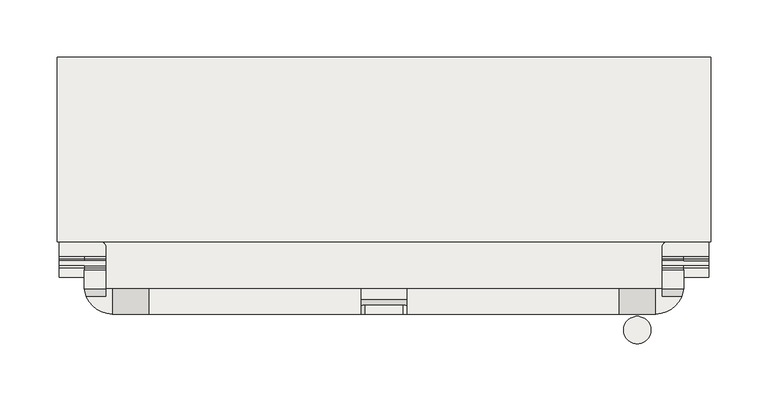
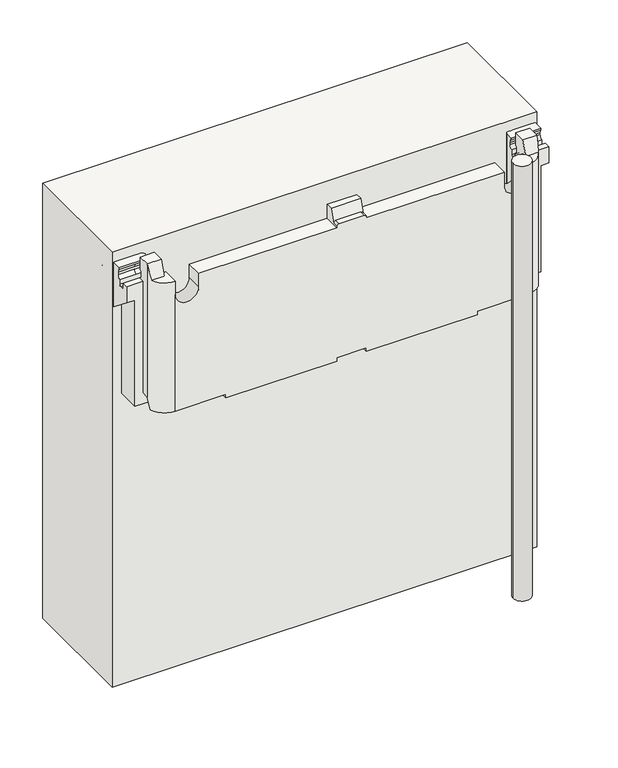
"""IFC4 building model written with IfcOpenShell, lengths in millimetres: covering geometry, panel VP Modulo prova ultima texture : panel VP Modulo prova ultima texture."""

from ifc_helpers import new_model, si_unit, point, frame, frame_2d, origin, origin_with_axes, place, context, project, spatial, polyline, circle_curve, ellipse_curve, trimmed, segment, composite_curve, outline, extrude, source, transform, mapped, element, save
from ifc_brep_helpers import plane_surface, cylinder_surface, revolved_surface, advanced_brep


def covering_a3d12077(model_context):
    return source(origin(), model_context, "Body", "SolidModel", [
        advanced_brep(
        [(-20.0, 40.503817, 620.002181), (-20.0, 49.5015434, 620.002181), (-20.0, 49.5015434, 600.0051242), (-20.0, 27.5015432, 600.0051242), (-20.0, 27.5015432, 602.0051242), (-20.0, 34.5021229, 602.0051242), (20.0, 49.5015434, 620.002181), (20.0, 40.503817, 620.002181), (20.0, 34.5021229, 602.0051242), (20.0, 27.5015432, 602.0051242), (20.0, 27.5015432, 600.0051242), (20.0, 49.5015434, 600.0051242), (-17.0, 35.5025688, 605.0051242), (17.0, 35.5025688, 605.0051242), (17.0, 27.5015432, 605.0051242), (-17.0, 27.5015432, 605.0051242), (-262.4808119, 49.5015434, 620.0), (-262.4808119, 65.772467, 620.0), (-262.4808119, 65.772467, 602.0569559), (-262.4808119, 63.7739273, 597.1614448), (-262.4808119, 63.7739273, 594.1614448), (-262.4808119, 67.7745502, 589.465245), (-262.4808119, 59.5, 589.465245), (-262.4808119, 59.5, 430.0008375), (-262.4808119, 49.5015434, 430.0008375), (262.4808119, 67.7745502, 589.465245), (262.4808119, 63.7739273, 594.1614448), (262.4808119, 63.7739273, 597.1614448), (262.4808119, 65.772467, 602.0569559), (262.4808119, 65.772467, 620.0), (262.4808119, 49.5015434, 620.0), (262.4808119, 49.5015434, 430.0008375), (262.4808119, 59.5, 430.0008375), (262.4808119, 59.5, 589.465245), (205.7808119, 27.5015432, 600.0051242), (205.7808119, 49.5015434, 600.0051242), (243.7808119, 42.6167555, 600.0051242), (243.7808119, 49.5015434, 600.0051242), (237.7808119, 49.5015434, 600.0051242), (237.7808119, 27.5015432, 600.0051242), (260.6550436, 42.6167555, 600.0051242), (-237.7808119, 27.5015432, 600.0051242), (-237.7808119, 49.5015434, 600.0051242), (-243.7808119, 49.5015434, 600.0051242), (-243.7808119, 42.6167555, 600.0051242), (-260.6550436, 42.6167555, 600.0051242), (-205.7808119, 49.5015434, 600.0051242), (-205.7808119, 27.5015432, 600.0051242), (-262.4808119, 109.8415131, 437.0015138), (262.4808119, 109.8415131, 437.0015138), (262.4808119, 141.2113001, 464.6420064), (-262.4808119, 141.2113001, 464.6420064), (-262.4808119, 147.3447094, 471.104234), (262.4808119, 147.3447094, 471.104234), (262.4808119, 184.4941844, 517.9868892), (-262.4808119, 184.4941844, 517.9868892), (262.4808119, 184.4941844, 544.985744), (-262.4808119, 184.4941844, 544.985744), (284.4808119, 184.4914281, 544.985744), (284.4808119, 202.488872, 544.985744), (-284.4808119, 202.488872, 544.985744), (-284.4808119, 184.4914281, 544.985744), (-284.4808119, 202.488872, 505.2724689), (284.4808119, 202.488872, 505.2724689), (262.4808119, 193.4423608, 463.8939381), (-262.4808119, 193.4423608, 463.8939381), (-284.4808119, 193.4423608, 463.8939381), (284.4808119, 193.4423608, 463.8939381), (262.4808119, 190.281945, 462.7662479), (-262.4808119, 190.281945, 462.7662479), (284.4808119, 190.281945, 462.7662479), (284.4808119, 59.5, 566.3969024), (273.4808119, 59.5, 566.3969024), (273.4808119, 180.2456216, 470.7189571), (262.4808119, 180.2456216, 470.7189571), (-262.4808119, 180.2456216, 470.7189571), (-273.4808119, 180.2456216, 470.7189571), (-273.4808119, 59.5, 566.3969024), (-284.4808119, 59.5, 566.3969024), (-284.4808119, 190.281945, 462.7662479), (262.4808119, 174.5899002, 470.0638751), (-262.4808119, 174.5899002, 470.0638751), (273.4808119, 174.5899002, 470.0638751), (273.4808119, 160.5878776, 452.3933509), (-273.4808119, 160.5878776, 452.3933509), (-273.4808119, 174.5899002, 470.0638751), (-273.4808119, 118.1414154, 414.9929974), (273.4808119, 118.1414154, 414.9929974), (237.7808119, 118.1414154, 414.9929974), (197.7808119, 118.1414154, 414.9929974), (20.0, 118.1414154, 414.9929974), (-20.0, 118.1414154, 414.9929974), (-197.7808119, 118.1414154, 414.9929974), (-237.7808119, 118.1414154, 414.9929974), (-273.4808119, 59.5, 415.0051259), (-237.7808119, 78.1414154, 415.0051259), (-197.7808119, 78.1414154, 415.0051259), (-20.0, 78.1414154, 415.0051259), (20.0, 78.1414154, 415.0051259), (197.7808119, 78.1414154, 415.0051259), (237.7808119, 78.1414154, 415.0051259), (273.4808119, 59.5, 415.0051259), (252.4808119, 59.5, 415.0051259), (252.4808119, 44.6291413, 415.0051259), (261.4118126, 44.6291413, 415.0051259), (237.7808119, 27.5015432, 415.0051259), (169.4808119, 27.5015432, 415.0051259), (169.4808119, 67.5015432, 415.0051259), (20.0, 67.5015432, 415.0051259), (20.0, 27.5015432, 415.0051259), (-20.0, 27.5015432, 415.0051259), (-20.0, 67.5015432, 415.0051259), (-169.4808119, 67.5015432, 415.0051259), (-169.4808119, 27.5015432, 415.0051259), (-237.7808119, 27.5015432, 415.0051259), (-261.4118126, 44.6291413, 415.0051259), (-252.4808119, 44.6291413, 415.0051259), (-252.4808119, 59.5, 415.0051259), (-205.7808119, 27.5015432, 580.9815937), (-237.7808119, 27.5015432, 580.9815937), (-169.4808119, 27.5015432, 409.9955405), (-20.0, 27.5015432, 409.9955405), (20.0, 27.5015432, 409.9955405), (169.4808119, 27.5015432, 409.9955405), (237.7808119, 27.5015432, 580.9815937), (205.7808119, 27.5015432, 580.9815937), (-237.7808119, 49.5015434, 580.9815937), (-205.7808119, 49.5015434, 580.9815937), (205.7808119, 49.5015434, 580.9815937), (237.7808119, 49.5015434, 580.9815937), (243.7808119, 49.5015434, 437.0015138), (-243.7808119, 49.5015434, 437.0015138), (-262.4808119, 101.3665857, 437.0015138), (-251.8742102, 90.7599839, 437.0015138), (-248.1742102, 90.7599839, 437.0015138), (-243.7808119, 86.3665857, 437.0015138), (243.7808119, 86.3665857, 437.0015138), (248.1742102, 90.7599839, 437.0015138), (251.8742102, 90.7599839, 437.0015138), (262.4808119, 101.3665857, 437.0015138), (-284.4808119, 59.5, 589.465245), (-284.4808119, 67.7745502, 589.465245), (-284.4808119, 67.7745502, 582.4654102), (-284.4808119, 69.7745502, 580.4654102), (-284.4808119, 74.0001297, 580.4654102), (-284.4808119, 76.0001297, 582.4654102), (-284.4808119, 76.0001297, 589.465245), (-284.4808119, 80.0007527, 594.1614448), (-284.4808119, 80.0007527, 597.1614448), (-284.4808119, 78.002213, 602.0569559), (-284.4808119, 78.002213, 605.0086707), (-284.4808119, 115.166168, 605.0086707), (-284.4808119, 118.166168, 602.0086707), (-284.4808119, 118.166168, 585.7281184), (-284.4808119, 119.6447617, 583.1425192), (-262.4808119, 119.6447617, 583.1425192), (-262.4808119, 118.166168, 585.7281184), (-262.4808119, 118.166168, 602.0086707), (-262.4808119, 115.166168, 605.0086707), (-262.4808119, 101.3665857, 605.0086707), (-252.4808119, 59.5, 430.0008375), (-243.7808119, 67.7745502, 589.465245), (-243.7808119, 67.7745502, 582.4654102), (-262.4808119, 67.7745502, 582.4654102), (-262.4808119, 69.7745502, 580.4654102), (-243.7808119, 69.7745502, 580.4654102), (-243.7808119, 74.0001297, 580.4654102), (-262.4808119, 74.0001297, 580.4654102), (-262.4808119, 76.0001297, 582.4654102), (-243.7808119, 76.0001297, 582.4654102), (-243.7808119, 76.0001297, 589.465245), (-262.4808119, 76.0001297, 589.465245), (-262.4808119, 80.0007527, 594.1614448), (-243.7808119, 80.0007527, 594.1614448), (-243.7808119, 80.0007527, 597.1614448), (-262.4808119, 80.0007527, 597.1614448), (-262.4808119, 78.002213, 602.0569559), (-243.7808119, 78.002213, 602.0569559), (-243.7808119, 78.002213, 605.0086707), (-243.7808119, 86.3665857, 605.0086707), (-248.1742102, 90.7599839, 605.0086707), (-251.8742102, 90.7599839, 605.0086707), (-243.7808119, 63.7739273, 594.1614448), (-243.7808119, 63.7739273, 597.1614448), (-243.7808119, 65.772467, 602.0569559), (-243.7808119, 65.772467, 620.0), (-243.7808119, 49.5015434, 620.0), (284.4808119, 119.6447617, 583.1425192), (284.4808119, 118.166168, 585.7281184), (284.4808119, 118.166168, 602.0086707), (284.4808119, 115.166168, 605.0086707), (284.4808119, 78.002213, 605.0086707), (284.4808119, 78.002213, 602.0569559), (284.4808119, 80.0007527, 597.1614448), (284.4808119, 80.0007527, 594.1614448), (284.4808119, 76.0001297, 589.465245), (284.4808119, 76.0001297, 582.4654102), (284.4808119, 74.0001297, 580.4654102), (284.4808119, 69.7745502, 580.4654102), (284.4808119, 67.7745502, 582.4654102), (284.4808119, 67.7745502, 589.465245), (284.4808119, 59.5, 589.465245), (262.4808119, 115.166168, 605.0086707), (262.4808119, 118.166168, 602.0086707), (262.4808119, 118.166168, 585.7281184), (262.4808119, 119.6447617, 583.1425192), (262.4808119, 101.3665857, 605.0086707), (252.4808119, 59.5, 430.0008375), (262.4808119, 69.7745502, 580.4654102), (262.4808119, 67.7745502, 582.4654102), (262.4808119, 76.0001297, 582.4654102), (262.4808119, 74.0001297, 580.4654102), (262.4808119, 80.0007527, 594.1614448), (262.4808119, 76.0001297, 589.465245), (262.4808119, 78.002213, 602.0569559), (262.4808119, 80.0007527, 597.1614448), (243.7808119, 49.5015434, 620.0), (243.7808119, 65.772467, 620.0), (243.7808119, 65.772467, 602.0569559), (243.7808119, 63.7739273, 597.1614448), (243.7808119, 63.7739273, 594.1614448), (243.7808119, 67.7745502, 589.465245), (243.7808119, 67.7745502, 582.4654102), (243.7808119, 69.7745502, 580.4654102), (243.7808119, 74.0001297, 580.4654102), (243.7808119, 76.0001297, 582.4654102), (243.7808119, 76.0001297, 589.465245), (243.7808119, 80.0007527, 594.1614448), (243.7808119, 80.0007527, 597.1614448), (243.7808119, 78.002213, 602.0569559), (243.7808119, 78.002213, 605.0086707), (243.7808119, 86.3665857, 605.0086707), (251.8742102, 90.7599839, 605.0086707), (248.1742102, 90.7599839, 605.0086707), (237.7808119, 78.1414154, 409.9955405), (197.7808119, 78.1414154, 409.9955405), (197.7808119, 118.1414154, 409.9955405), (237.7808119, 118.1414154, 409.9955405), (-20.0, 78.1414154, 409.9955405), (-20.0, 118.1414154, 409.9955405), (20.0, 118.1414154, 409.9955405), (20.0, 78.1414154, 409.9955405), (-237.7808119, 78.1414154, 409.9955405), (-237.7808119, 118.1414154, 409.9955405), (-197.7808119, 118.1414154, 409.9955405), (-197.7808119, 78.1414154, 409.9955405), (20.0, 67.5015432, 409.9955405), (169.4808119, 67.5015432, 409.9955405), (-20.0, 67.5015432, 409.9955405), (-169.4808119, 67.5015432, 409.9955405), (-252.4808119, 49.5015434, 430.0008375), (252.4808119, 49.5015434, 430.0008375)],
        [
            (0, 1),
            (1, 2),
            (2, 3),
            (3, 4),
            (4, 5),
            (5, 0),
            (6, 7),
            (7, 8),
            (8, 9),
            (9, 10),
            (10, 11),
            (11, 6),
            (0, 7),
            (6, 1),
            (5, 12, ellipse_curve(frame((-17.0, 34.5021229, 602.0051242), z_axis=(0.0, 0.9486409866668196, -0.31635467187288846), x_axis=(0.0, 0.31635467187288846, 0.9486409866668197)), 3.1624187, 3.0)),
            (12, 13),
            (13, 8, ellipse_curve(frame((17.0, 34.5021229, 602.0051242), z_axis=(0.0, 0.9486409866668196, -0.31635467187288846), x_axis=(0.0, 0.31635467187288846, 0.9486409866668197)), 3.1624187, 3.0)),
            (14, 9, circle_curve(frame((17.0, 27.5015432, 602.0051242), z_axis=(0.0, 1.0, 0.0), x_axis=(-1.0, 0.0, 0.0)), 3.0)),
            (13, 14),
            (4, 15, circle_curve(frame((-17.0, 27.5015432, 602.0051242), z_axis=(0.0, 1.0, 0.0), x_axis=(-1.0, 0.0, 0.0)), 3.0)),
            (15, 12),
            (15, 14),
            (16, 17),
            (17, 18),
            (18, 19, circle_curve(frame((-262.4808119, 70.7690822, 597.1614448), z_axis=(1.0, 0.0, 0.0), x_axis=(0.0, -1.0, 0.0)), 6.9951549)),
            (19, 20),
            (20, 21, circle_curve(frame((-262.4808119, 68.5305961, 594.1614448), z_axis=(1.0, 0.0, 0.0), x_axis=(0.0, -1.0, 0.0)), 4.7566689)),
            (21, 22),
            (22, 23),
            (23, 24),
            (24, 16),
            (25, 26, circle_curve(frame((262.4808119, 68.5305961, 594.1614448), z_axis=(-1.0, 0.0, 0.0), x_axis=(0.0, -1.0, 0.0)), 4.7566689)),
            (26, 27),
            (27, 28, circle_curve(frame((262.4808119, 70.7690822, 597.1614448), z_axis=(-1.0, 0.0, 0.0), x_axis=(0.0, -1.0, 0.0)), 6.9951549)),
            (28, 29),
            (29, 30),
            (30, 31),
            (31, 32),
            (32, 33),
            (33, 25),
            (10, 34),
            (34, 35),
            (35, 11),
            (36, 37),
            (37, 38),
            (38, 39),
            (39, 40, circle_curve(frame((237.7808119, 52.367225, 600.0051242), z_axis=(0.0, 0.0, 1.0), x_axis=(1.0, 0.0, 0.0)), 24.8656818)),
            (40, 36),
            (41, 42),
            (42, 43),
            (43, 44),
            (44, 45),
            (45, 41, circle_curve(frame((-237.7808119, 52.367225, 600.0051242), z_axis=(0.0, 0.0, 1.0), x_axis=(-1.0, 0.0, 0.0)), 24.8656818)),
            (46, 47),
            (47, 3),
            (2, 46),
            (48, 49),
            (49, 50),
            (50, 51),
            (51, 48),
            (52, 53),
            (53, 54),
            (54, 55),
            (55, 52),
            (54, 56),
            (56, 57),
            (57, 55),
            (56, 58),
            (58, 59),
            (59, 60),
            (60, 61),
            (61, 57),
            (62, 60),
            (59, 63),
            (63, 62),
            (64, 65),
            (65, 66),
            (66, 62),
            (63, 67),
            (67, 64),
            (64, 68, circle_curve(frame((262.4808119, 191.5102381, 464.3163545), z_axis=(-1.0, 0.0, 0.0), x_axis=(0.0, -1.0, 0.0)), 1.9777598)),
            (68, 69),
            (69, 65, circle_curve(frame((-262.4808119, 191.5102381, 464.3163545), z_axis=(1.0, 0.0, 0.0), x_axis=(0.0, -1.0, 0.0)), 1.9777598)),
            (68, 70),
            (70, 71),
            (71, 72),
            (72, 73),
            (73, 74),
            (74, 75),
            (75, 76),
            (76, 77),
            (77, 78),
            (78, 79),
            (79, 69),
            (74, 80, circle_curve(frame((262.4808119, 177.7453022, 467.5635526), z_axis=(1.0, 0.0, 0.0), x_axis=(0.0, -1.0, 0.0)), 4.0259377)),
            (80, 81),
            (81, 75, circle_curve(frame((-262.4808119, 177.7453022, 467.5635526), z_axis=(-1.0, 0.0, 0.0), x_axis=(0.0, -1.0, 0.0)), 4.0259377)),
            (80, 82),
            (82, 83),
            (83, 84),
            (84, 85),
            (85, 81),
            (86, 84),
            (83, 87),
            (87, 88),
            (88, 89),
            (89, 90),
            (90, 91),
            (91, 92),
            (92, 93),
            (93, 86),
            (50, 53, circle_curve(frame((262.4808119, 108.1562691, 502.1568691), z_axis=(1.0, 0.0, 0.0), x_axis=(0.0, -1.0, 0.0)), 50.0)),
            (52, 51, circle_curve(frame((-262.4808119, 108.1562691, 502.1568691), z_axis=(-1.0, 0.0, 0.0), x_axis=(0.0, -1.0, 0.0)), 50.0)),
            (94, 86),
            (93, 95),
            (95, 96),
            (96, 92),
            (91, 97),
            (97, 98),
            (98, 90),
            (89, 99),
            (99, 100),
            (100, 88),
            (87, 101),
            (101, 102),
            (102, 103),
            (103, 104),
            (104, 105, circle_curve(frame((237.7808119, 52.367225, 415.0051259), z_axis=(0.0, 0.0, -1.0), x_axis=(1.0, 0.0, 0.0)), 24.8656818)),
            (105, 106),
            (106, 107),
            (107, 108),
            (108, 109),
            (109, 110),
            (110, 111),
            (111, 112),
            (112, 113),
            (113, 114),
            (114, 115, circle_curve(frame((-237.7808119, 52.367225, 415.0051259), z_axis=(0.0, 0.0, -1.0), x_axis=(-1.0, 0.0, 0.0)), 24.8656818)),
            (115, 116),
            (116, 117),
            (117, 94),
            (47, 118),
            (118, 119, circle_curve(frame((-221.7808119, 27.5015432, 580.9815937), z_axis=(0.0, 1.0, 0.0), x_axis=(-1.0, 0.0, 0.0)), 16.0)),
            (119, 114),
            (113, 120),
            (120, 121),
            (121, 110),
            (109, 122),
            (122, 123),
            (123, 106),
            (105, 124),
            (124, 125, circle_curve(frame((221.7808119, 27.5015432, 580.9815937), z_axis=(0.0, 1.0, 0.0), x_axis=(1.0, 0.0, 0.0)), 16.0)),
            (125, 34),
            (42, 126),
            (126, 127, circle_curve(frame((-221.7808119, 49.5015434, 580.9815937), z_axis=(0.0, -1.0, 0.0), x_axis=(-1.0, 0.0, 0.0)), 16.0)),
            (127, 46),
            (35, 128),
            (128, 129, circle_curve(frame((221.7808119, 49.5015434, 580.9815937), z_axis=(0.0, -1.0, 0.0), x_axis=(1.0, 0.0, 0.0)), 16.0)),
            (129, 38),
            (37, 130),
            (130, 131),
            (131, 43),
            (48, 132),
            (132, 133, circle_curve(frame((-251.8742102, 101.3665857, 437.0015138), z_axis=(0.0, 0.0, 1.0), x_axis=(-1.0, 0.0, 0.0)), 10.6066017)),
            (133, 134),
            (134, 135, circle_curve(frame((-248.1742102, 86.3665857, 437.0015138), z_axis=(0.0, 0.0, -1.0), x_axis=(-1.0, 0.0, 0.0)), 4.3933983)),
            (135, 131),
            (130, 136),
            (136, 137, circle_curve(frame((248.1742102, 86.3665857, 437.0015138), z_axis=(0.0, 0.0, -1.0), x_axis=(1.0, 0.0, 0.0)), 4.3933983)),
            (137, 138),
            (138, 139, circle_curve(frame((251.8742102, 101.3665857, 437.0015138), z_axis=(0.0, 0.0, 1.0), x_axis=(1.0, 0.0, 0.0)), 10.6066017)),
            (139, 49),
            (66, 79, circle_curve(frame((-284.4808119, 191.5102381, 464.3163545), z_axis=(-1.0, 0.0, 0.0), x_axis=(0.0, -1.0, 0.0)), 1.9777598)),
            (78, 140),
            (140, 141),
            (141, 142),
            (142, 143, circle_curve(frame((-284.4808119, 69.7745502, 582.4654102), z_axis=(1.0, 0.0, 0.0), x_axis=(0.0, -1.0, 0.0)), 2.0)),
            (143, 144),
            (144, 145, circle_curve(frame((-284.4808119, 74.0001297, 582.4654102), z_axis=(1.0, 0.0, 0.0), x_axis=(0.0, -1.0, 0.0)), 2.0)),
            (145, 146),
            (146, 147, circle_curve(frame((-284.4808119, 75.2440838, 594.1614448), z_axis=(1.0, 0.0, 0.0), x_axis=(0.0, -1.0, 0.0)), 4.7566689)),
            (147, 148),
            (148, 149, circle_curve(frame((-284.4808119, 73.0055977, 597.1614448), z_axis=(1.0, 0.0, 0.0), x_axis=(0.0, -1.0, 0.0)), 6.9951549)),
            (149, 150),
            (150, 151),
            (151, 152, circle_curve(frame((-284.4808119, 115.166168, 602.0086707), z_axis=(-1.0, 0.0, 0.0), x_axis=(0.0, -1.0, 0.0)), 3.0)),
            (152, 153),
            (153, 154, circle_curve(frame((-284.4808119, 121.166168, 585.7281184), z_axis=(1.0, 0.0, 0.0), x_axis=(0.0, -1.0, 0.0)), 3.0)),
            (154, 61),
            (57, 155),
            (155, 156, circle_curve(frame((-262.4808119, 121.166168, 585.7281184), z_axis=(-1.0, 0.0, 0.0), x_axis=(0.0, -1.0, 0.0)), 3.0)),
            (156, 157),
            (157, 158, circle_curve(frame((-262.4808119, 115.166168, 602.0086707), z_axis=(1.0, 0.0, 0.0), x_axis=(0.0, -1.0, 0.0)), 3.0)),
            (158, 159),
            (159, 132),
            (77, 94),
            (117, 160),
            (160, 23),
            (22, 140),
            (141, 21),
            (21, 161),
            (161, 162),
            (162, 163),
            (163, 142),
            (163, 164, circle_curve(frame((-262.4808119, 69.7745502, 582.4654102), z_axis=(1.0, 0.0, 0.0), x_axis=(0.0, -1.0, 0.0)), 2.0)),
            (164, 143),
            (164, 165),
            (165, 166),
            (166, 167),
            (167, 144),
            (167, 168, circle_curve(frame((-262.4808119, 74.0001297, 582.4654102), z_axis=(1.0, 0.0, 0.0), x_axis=(0.0, -1.0, 0.0)), 2.0)),
            (168, 145),
            (168, 169),
            (169, 170),
            (170, 171),
            (171, 146),
            (171, 172, circle_curve(frame((-262.4808119, 75.2440838, 594.1614448), z_axis=(1.0, 0.0, 0.0), x_axis=(0.0, -1.0, 0.0)), 4.7566689)),
            (172, 147),
            (172, 173),
            (173, 174),
            (174, 175),
            (175, 148),
            (175, 176, circle_curve(frame((-262.4808119, 73.0055977, 597.1614448), z_axis=(1.0, 0.0, 0.0), x_axis=(0.0, -1.0, 0.0)), 6.9951549)),
            (176, 149),
            (176, 177),
            (177, 178),
            (178, 150),
            (178, 179),
            (179, 180, circle_curve(frame((-248.1742102, 86.3665857, 605.0086707), z_axis=(0.0, 0.0, 1.0), x_axis=(-1.0, 0.0, 0.0)), 4.3933983)),
            (180, 181),
            (181, 159, circle_curve(frame((-251.8742102, 101.3665857, 605.0086707), z_axis=(0.0, 0.0, -1.0), x_axis=(-1.0, 0.0, 0.0)), 10.6066017)),
            (158, 151),
            (157, 152),
            (156, 153),
            (155, 154),
            (76, 85, circle_curve(frame((-273.4808119, 177.7453022, 467.5635526), z_axis=(1.0, 0.0, 0.0), x_axis=(0.0, -1.0, 0.0)), 4.0259377)),
            (45, 16, ellipse_curve(frame((-237.7808119, 52.367225, 628.3225437), z_axis=(0.0, 0.9455185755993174, -0.32556815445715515), x_axis=(0.0, -0.3255681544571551, -0.9455185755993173)), 76.3762716, 24.8656818)),
            (24, 115, ellipse_curve(frame((-237.7808119, 52.367225, 438.8204986), z_axis=(0.0, -0.9510565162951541, 0.3090169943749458), x_axis=(0.0, -0.30901699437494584, -0.9510565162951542)), 80.4670366, 24.8656818)),
            (119, 41),
            (177, 174, circle_curve(frame((-243.7808119, 73.0055977, 597.1614448), z_axis=(-1.0, 0.0, 0.0), x_axis=(0.0, -1.0, 0.0)), 6.9951549)),
            (173, 170, circle_curve(frame((-243.7808119, 75.2440838, 594.1614448), z_axis=(-1.0, 0.0, 0.0), x_axis=(0.0, -1.0, 0.0)), 4.7566689)),
            (169, 166, circle_curve(frame((-243.7808119, 74.0001297, 582.4654102), z_axis=(-1.0, 0.0, 0.0), x_axis=(0.0, -1.0, 0.0)), 2.0)),
            (165, 162, circle_curve(frame((-243.7808119, 69.7745502, 582.4654102), z_axis=(-1.0, 0.0, 0.0), x_axis=(0.0, -1.0, 0.0)), 2.0)),
            (161, 182, circle_curve(frame((-243.7808119, 68.5305961, 594.1614448), z_axis=(-1.0, 0.0, 0.0), x_axis=(0.0, -1.0, 0.0)), 4.7566689)),
            (182, 183),
            (183, 184, circle_curve(frame((-243.7808119, 70.7690822, 597.1614448), z_axis=(-1.0, 0.0, 0.0), x_axis=(0.0, -1.0, 0.0)), 6.9951549)),
            (184, 185),
            (185, 186),
            (186, 44),
            (135, 179),
            (16, 186),
            (185, 17),
            (184, 18),
            (183, 19),
            (182, 20),
            (134, 180),
            (133, 181),
            (39, 124),
            (104, 31, ellipse_curve(frame((237.7808119, 52.367225, 438.8204986), z_axis=(0.0, -0.9510565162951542, 0.3090169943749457), x_axis=(0.0, -0.3090169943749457, -0.9510565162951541)), 80.4670366, 24.8656818)),
            (30, 40, ellipse_curve(frame((237.7808119, 52.367225, 628.3225437), z_axis=(0.0, 0.9455185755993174, -0.3255681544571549), x_axis=(0.0, -0.3255681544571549, -0.9455185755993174)), 76.3762716, 24.8656818)),
            (58, 187),
            (187, 188, circle_curve(frame((284.4808119, 121.166168, 585.7281184), z_axis=(-1.0, 0.0, 0.0), x_axis=(0.0, -1.0, 0.0)), 3.0)),
            (188, 189),
            (189, 190, circle_curve(frame((284.4808119, 115.166168, 602.0086707), z_axis=(1.0, 0.0, 0.0), x_axis=(0.0, -1.0, 0.0)), 3.0)),
            (190, 191),
            (191, 192),
            (192, 193, circle_curve(frame((284.4808119, 73.0055977, 597.1614448), z_axis=(-1.0, 0.0, 0.0), x_axis=(0.0, -1.0, 0.0)), 6.9951549)),
            (193, 194),
            (194, 195, circle_curve(frame((284.4808119, 75.2440838, 594.1614448), z_axis=(-1.0, 0.0, 0.0), x_axis=(0.0, -1.0, 0.0)), 4.7566689)),
            (195, 196),
            (196, 197, circle_curve(frame((284.4808119, 74.0001297, 582.4654102), z_axis=(-1.0, 0.0, 0.0), x_axis=(0.0, -1.0, 0.0)), 2.0)),
            (197, 198),
            (198, 199, circle_curve(frame((284.4808119, 69.7745502, 582.4654102), z_axis=(-1.0, 0.0, 0.0), x_axis=(0.0, -1.0, 0.0)), 2.0)),
            (199, 200),
            (200, 201),
            (201, 71),
            (70, 67, circle_curve(frame((284.4808119, 191.5102381, 464.3163545), z_axis=(1.0, 0.0, 0.0), x_axis=(0.0, -1.0, 0.0)), 1.9777598)),
            (202, 203, circle_curve(frame((262.4808119, 115.166168, 602.0086707), z_axis=(-1.0, 0.0, 0.0), x_axis=(0.0, -1.0, 0.0)), 3.0)),
            (203, 204),
            (204, 205, circle_curve(frame((262.4808119, 121.166168, 585.7281184), z_axis=(1.0, 0.0, 0.0), x_axis=(0.0, -1.0, 0.0)), 3.0)),
            (205, 56),
            (139, 206),
            (206, 202),
            (201, 33),
            (32, 207),
            (207, 102),
            (101, 72),
            (198, 208),
            (208, 209, circle_curve(frame((262.4808119, 69.7745502, 582.4654102), z_axis=(-1.0, 0.0, 0.0), x_axis=(0.0, -1.0, 0.0)), 2.0)),
            (209, 199),
            (196, 210),
            (210, 211, circle_curve(frame((262.4808119, 74.0001297, 582.4654102), z_axis=(-1.0, 0.0, 0.0), x_axis=(0.0, -1.0, 0.0)), 2.0)),
            (211, 197),
            (194, 212),
            (212, 213, circle_curve(frame((262.4808119, 75.2440838, 594.1614448), z_axis=(-1.0, 0.0, 0.0), x_axis=(0.0, -1.0, 0.0)), 4.7566689)),
            (213, 195),
            (192, 214),
            (214, 215, circle_curve(frame((262.4808119, 73.0055977, 597.1614448), z_axis=(-1.0, 0.0, 0.0), x_axis=(0.0, -1.0, 0.0)), 6.9951549)),
            (215, 193),
            (189, 203),
            (202, 190),
            (188, 204),
            (187, 205),
            (200, 25),
            (36, 216),
            (216, 217),
            (217, 218),
            (218, 219, circle_curve(frame((243.7808119, 70.7690822, 597.1614448), z_axis=(1.0, 0.0, 0.0), x_axis=(0.0, -1.0, 0.0)), 6.9951549)),
            (219, 220),
            (220, 221, circle_curve(frame((243.7808119, 68.5305961, 594.1614448), z_axis=(1.0, 0.0, 0.0), x_axis=(0.0, -1.0, 0.0)), 4.7566689)),
            (221, 222),
            (222, 223, circle_curve(frame((243.7808119, 69.7745502, 582.4654102), z_axis=(1.0, 0.0, 0.0), x_axis=(0.0, -1.0, 0.0)), 2.0)),
            (223, 224),
            (224, 225, circle_curve(frame((243.7808119, 74.0001297, 582.4654102), z_axis=(1.0, 0.0, 0.0), x_axis=(0.0, -1.0, 0.0)), 2.0)),
            (225, 226),
            (226, 227, circle_curve(frame((243.7808119, 75.2440838, 594.1614448), z_axis=(1.0, 0.0, 0.0), x_axis=(0.0, -1.0, 0.0)), 4.7566689)),
            (227, 228),
            (228, 229, circle_curve(frame((243.7808119, 73.0055977, 597.1614448), z_axis=(1.0, 0.0, 0.0), x_axis=(0.0, -1.0, 0.0)), 6.9951549)),
            (229, 230),
            (230, 231),
            (231, 136),
            (221, 25),
            (209, 222),
            (208, 223),
            (29, 217),
            (216, 30),
            (28, 218),
            (27, 219),
            (26, 220),
            (211, 224),
            (210, 225),
            (213, 226),
            (212, 227),
            (215, 228),
            (214, 229),
            (191, 230),
            (206, 232, circle_curve(frame((251.8742102, 101.3665857, 605.0086707), z_axis=(0.0, 0.0, -1.0), x_axis=(1.0, 0.0, 0.0)), 10.6066017)),
            (232, 233),
            (233, 231, circle_curve(frame((248.1742102, 86.3665857, 605.0086707), z_axis=(0.0, 0.0, 1.0), x_axis=(1.0, 0.0, 0.0)), 4.3933983)),
            (233, 137),
            (232, 138),
            (119, 126),
            (127, 118),
            (129, 124),
            (125, 128),
            (82, 73, circle_curve(frame((273.4808119, 177.7453022, 467.5635526), z_axis=(-1.0, 0.0, 0.0), x_axis=(0.0, -1.0, 0.0)), 4.0259377)),
            (234, 235),
            (235, 236),
            (236, 237),
            (237, 234),
            (234, 100),
            (99, 235),
            (89, 236),
            (88, 237),
            (238, 239),
            (239, 240),
            (240, 241),
            (241, 238),
            (241, 98),
            (97, 238),
            (240, 90),
            (239, 91),
            (242, 243),
            (243, 244),
            (244, 245),
            (245, 242),
            (245, 96),
            (95, 242),
            (244, 92),
            (243, 93),
            (246, 247),
            (247, 123),
            (122, 246),
            (248, 121),
            (120, 249),
            (249, 248),
            (108, 246),
            (247, 107),
            (249, 112),
            (111, 248),
            (250, 160),
            (116, 250),
            (250, 24),
            (251, 103),
            (207, 251),
            (31, 251),
        ],
        [
            plane_surface(frame((-20.0, 49.5042184, 620.002181), z_axis=(-1.0, 0.0, 0.0), x_axis=(0.0, 1.0, 0.0))),
            plane_surface(frame((20.0, 49.5042184, 620.002181), z_axis=(1.0, 0.0, 0.0), x_axis=(0.0, -1.0, 0.0))),
            plane_surface(frame((-20.0, 40.503817, 620.002181), z_axis=(0.0, 0.0, 1.0), x_axis=(1.0, 0.0, 0.0))),
            plane_surface(frame((-20.0, 33.835159, 600.0051242), z_axis=(0.0, -0.9486409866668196, 0.31635467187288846), x_axis=(1.0, 0.0, 0.0))),
            cylinder_surface(frame((17.0, 27.5015432, 602.0051242), z_axis=(0.0, 1.0, 0.0), x_axis=(-1.0, 0.0, 0.0)), 3.0),
            cylinder_surface(frame((-17.0, 27.5015432, 602.0051242), z_axis=(0.0, 1.0, 0.0), x_axis=(-1.0, 0.0, 0.0)), 3.0),
            plane_surface(frame((-17.0, 49.501543, 605.0051242), z_axis=(0.0, 0.0, 1.0), x_axis=(0.0, -1.0, 0.0))),
            plane_surface(frame((-262.4808119, 118.1414154, 414.9929974), z_axis=(-1.0, 0.0, 0.0), x_axis=(0.0, -0.7502972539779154, -0.6611006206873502))),
            plane_surface(frame((262.4808119, 118.1414154, 414.9929974), z_axis=(1.0, 0.0, 0.0), x_axis=(0.0, 0.7502972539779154, 0.6611006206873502))),
            plane_surface(frame((-262.4808119, 27.5015432, 600.0051242), z_axis=(0.0, 0.0, 1.0), x_axis=(1.0, 0.0, 0.0))),
            plane_surface(frame((-262.4808119, 109.8415131, 437.0015138), z_axis=(0.0, -0.6611006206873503, 0.7502972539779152), x_axis=(1.0, 0.0, 0.0))),
            plane_surface(frame((-262.4808119, 147.3447094, 471.104234), z_axis=(0.0, -0.7837688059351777, 0.6210527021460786), x_axis=(1.0, 0.0, 0.0))),
            plane_surface(frame((-262.4808119, 184.4941844, 517.9868892), z_axis=(0.0, -1.0, 0.0), x_axis=(1.0, 0.0, 0.0))),
            plane_surface(frame((-262.4808119, 184.4941844, 544.985744), z_axis=(0.0, 0.0, 1.0), x_axis=(1.0, 0.0, 0.0))),
            plane_surface(frame((-262.4808119, 202.488872, 544.985744), z_axis=(0.0, 1.0, 0.0), x_axis=(1.0, 0.0, 0.0))),
            plane_surface(frame((-262.4808119, 202.488872, 505.2724689), z_axis=(0.0, 0.9769248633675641, -0.21358326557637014), x_axis=(1.0, 0.0, 0.0))),
            cylinder_surface(frame((262.4808119, 191.5102381, 464.3163545), z_axis=(-1.0, 0.0, 0.0), x_axis=(0.0, -1.0, 0.0)), 1.9777598),
            plane_surface(frame((-262.4808119, 190.281945, 462.7662479), z_axis=(0.0, -0.6210526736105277, -0.7837688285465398), x_axis=(1.0, 0.0, 0.0))),
            revolved_surface(polyline([(262.4808119, 173.71936449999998, 467.5635526), (-262.4808119, 173.71936449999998, 467.5635526)]), (262.4808119, 177.7453022, 467.5635526), (1.0, 0.0, 0.0)),
            plane_surface(frame((-262.4808119, 174.5899002, 470.0638751), z_axis=(0.0, 0.7837682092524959, -0.6210534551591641), x_axis=(1.0, 0.0, 0.0))),
            plane_surface(frame((-262.4808119, 160.5878776, 452.3933509), z_axis=(0.0, 0.6611006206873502, -0.7502972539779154), x_axis=(1.0, 0.0, 0.0))),
            revolved_surface(polyline([(262.4808119, 58.1562691, 502.1568691), (-262.4808119, 58.1562691, 502.1568691)]), (262.4808119, 108.1562691, 502.1568691), (1.0, 0.0, 0.0)),
            plane_surface(frame((-262.4808119, 118.1551803, 415.0051259), z_axis=(0.0, 0.0, -1.0), x_axis=(1.0, 0.0, 0.0))),
            plane_surface(frame((-262.4808119, 27.5015432, 415.0051259), z_axis=(0.0, -1.0, 0.0), x_axis=(1.0, 0.0, 0.0))),
            plane_surface(frame((-262.4808119, 49.5015434, 600.0051242), z_axis=(0.0, 1.0, 0.0), x_axis=(1.0, 0.0, 0.0))),
            plane_surface(frame((-262.4808119, 49.5015434, 437.0015138), z_axis=(0.0, 0.0, 1.0), x_axis=(1.0, 0.0, 0.0))),
            plane_surface(frame((-284.4808119, 202.488872, 505.2724689), z_axis=(-1.0000000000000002, 0.0, 0.0), x_axis=(0.0, -0.21358326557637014, -0.9769248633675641))),
            plane_surface(frame((-262.4808119, 202.488872, 505.2724689), z_axis=(1.0000000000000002, 0.0, 0.0), x_axis=(0.0, 0.21358326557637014, 0.9769248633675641))),
            cylinder_surface(frame((-262.4808119, 191.5102381, 464.3163545), z_axis=(-1.0, 0.0, 0.0), x_axis=(0.0, -1.0, 0.0)), 1.9777598),
            plane_surface(frame((-284.4808119, 59.5, 566.3969024), z_axis=(0.0, -1.0, 0.0), x_axis=(1.0, 0.0, 0.0))),
            plane_surface(frame((-284.4808119, 67.7745502, 589.465245), z_axis=(0.0, 1.0, 0.0), x_axis=(1.0, 0.0, 0.0))),
            revolved_surface(polyline([(-262.4808119, 67.7745502, 582.4654102), (-284.4808119, 67.7745502, 582.4654102)]), (-262.4808119, 69.7745502, 582.4654102), (1.0, 0.0, 0.0)),
            plane_surface(frame((-284.4808119, 69.7745502, 580.4654102), z_axis=(0.0, 0.0, 1.0), x_axis=(1.0, 0.0, 0.0))),
            revolved_surface(polyline([(-262.4808119, 72.0001297, 582.4654102), (-284.4808119, 72.0001297, 582.4654102)]), (-262.4808119, 74.0001297, 582.4654102), (1.0, 0.0, 0.0)),
            plane_surface(frame((-284.4808119, 76.0001297, 582.4654102), z_axis=(0.0, -1.0, 0.0), x_axis=(1.0, 0.0, 0.0))),
            revolved_surface(polyline([(-262.4808119, 70.4874149, 594.1614448), (-284.4808119, 70.4874149, 594.1614448)]), (-262.4808119, 75.2440838, 594.1614448), (1.0, 0.0, 0.0)),
            plane_surface(frame((-284.4808119, 80.0007527, 594.1614448), z_axis=(0.0, -1.0, 0.0), x_axis=(1.0, 0.0, 0.0))),
            revolved_surface(polyline([(-262.4808119, 66.01044279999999, 597.1614448), (-284.4808119, 66.01044279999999, 597.1614448)]), (-262.4808119, 73.0055977, 597.1614448), (1.0, 0.0, 0.0)),
            plane_surface(frame((-284.4808119, 78.002213, 602.0569559), z_axis=(0.0, -1.0, 0.0), x_axis=(1.0, 0.0, 0.0))),
            plane_surface(frame((-284.4808119, 78.002213, 605.0086707), z_axis=(0.0, 0.0, 1.0), x_axis=(1.0, 0.0, 0.0))),
            cylinder_surface(frame((-262.4808119, 115.166168, 602.0086707), z_axis=(-1.0, 0.0, 0.0), x_axis=(0.0, -1.0, 0.0)), 3.0),
            plane_surface(frame((-284.4808119, 118.166168, 602.0086707), z_axis=(0.0, 1.0, 0.0), x_axis=(1.0, 0.0, 0.0))),
            revolved_surface(polyline([(-262.4808119, 118.166168, 585.7281184), (-284.4808119, 118.166168, 585.7281184)]), (-262.4808119, 121.166168, 585.7281184), (1.0, 0.0, 0.0)),
            plane_surface(frame((-284.4808119, 119.6447617, 583.1425192), z_axis=(0.0, 0.5071354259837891, 0.8618663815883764), x_axis=(1.0, 0.0, 0.0))),
            plane_surface(frame((-284.4808119, 59.5, 589.465245), z_axis=(0.0, 0.0, 1.0), x_axis=(1.0, 0.0, 0.0))),
            plane_surface(frame((-273.4808119, 174.5899002, 470.0638751), z_axis=(-1.0, 0.0, 0.0), x_axis=(0.0, -0.6210534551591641, -0.7837682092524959))),
            revolved_surface(polyline([(-262.4808119, 173.71936449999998, 467.5635526), (-273.4808119, 173.71936449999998, 467.5635526)]), (-262.4808119, 177.7453022, 467.5635526), (1.0, 0.0, 0.0)),
            cylinder_surface(frame((-237.7808119, 52.367225, 409.9955405), z_axis=(0.0, 0.0, -1.0), x_axis=(-1.0, 0.0, 0.0)), 24.8656818),
            plane_surface(frame((-243.7808119, 33.2976457, 600.0051242), z_axis=(1.0, 0.0, 0.0), x_axis=(0.0, 1.0, 0.0))),
            revolved_surface(polyline([(-243.7808119, 67.7745502, 582.4654102), (-262.4808119, 67.7745502, 582.4654102)]), (-243.7808119, 69.7745502, 582.4654102), (1.0, 0.0, 0.0)),
            plane_surface(frame((-262.4808119, 49.5015434, 620.0), z_axis=(0.0, 0.0, 1.0), x_axis=(1.0, 0.0, 0.0))),
            plane_surface(frame((-262.4808119, 65.772467, 620.0), z_axis=(0.0, 1.0, 0.0), x_axis=(1.0, 0.0, 0.0))),
            revolved_surface(polyline([(-243.7808119, 63.7739273, 597.1614448), (-262.4808119, 63.7739273, 597.1614448)]), (-243.7808119, 70.7690822, 597.1614448), (1.0, 0.0, 0.0)),
            plane_surface(frame((-262.4808119, 63.7739273, 597.1614448), z_axis=(0.0, 1.0, 0.0), x_axis=(1.0, 0.0, 0.0))),
            revolved_surface(polyline([(-243.7808119, 63.773927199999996, 594.1614448), (-262.4808119, 63.773927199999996, 594.1614448)]), (-243.7808119, 68.5305961, 594.1614448), (1.0, 0.0, 0.0)),
            revolved_surface(polyline([(-243.7808119, 72.0001297, 582.4654102), (-262.4808119, 72.0001297, 582.4654102)]), (-243.7808119, 74.0001297, 582.4654102), (1.0, 0.0, 0.0)),
            revolved_surface(polyline([(-243.7808119, 70.4874149, 594.1614448), (-262.4808119, 70.4874149, 594.1614448)]), (-243.7808119, 75.2440838, 594.1614448), (1.0, 0.0, 0.0)),
            revolved_surface(polyline([(-243.7808119, 66.01044279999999, 597.1614448), (-262.4808119, 66.01044279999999, 597.1614448)]), (-243.7808119, 73.0055977, 597.1614448), (1.0, 0.0, 0.0)),
            plane_surface(frame((-262.4808119, 42.6167555, 600.0051242), z_axis=(0.0, -0.9455185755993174, 0.32556815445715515), x_axis=(1.0, 0.0, 0.0))),
            cylinder_surface(frame((-248.1742102, 86.3665857, 437.0015138), z_axis=(0.0, 0.0, 1.0), x_axis=(-1.0, 0.0, 0.0)), 4.3933983),
            plane_surface(frame((-248.1742102, 90.7599839, 605.0086707), z_axis=(0.0, 1.0, 0.0), x_axis=(0.0, 0.0, -1.0))),
            revolved_surface(polyline([(-262.4808119, 101.3665857, 437.0015138), (-262.4808119, 101.3665857, 605.0086707)]), (-251.8742102, 101.3665857, 437.0015138), (0.0, 0.0, -1.0)),
            cylinder_surface(frame((237.7808119, 52.367225, 409.9955405), z_axis=(0.0, 0.0, -1.0), x_axis=(1.0, 0.0, 0.0)), 24.8656818),
            plane_surface(frame((284.4808119, 202.488872, 544.985744), z_axis=(1.0, 0.0, 0.0), x_axis=(0.0, 0.0, 1.0))),
            plane_surface(frame((262.4808119, 202.488872, 544.985744), z_axis=(-1.0, 0.0, 0.0), x_axis=(0.0, 0.0, -1.0))),
            cylinder_surface(frame((262.4808119, 191.5102381, 464.3163545), z_axis=(1.0, 0.0, 0.0), x_axis=(0.0, -1.0, 0.0)), 1.9777598),
            plane_surface(frame((284.4808119, 59.5, 589.465245), z_axis=(0.0, -1.0, 0.0), x_axis=(-1.0, 0.0, 0.0))),
            revolved_surface(polyline([(262.4808119, 67.7745502, 582.4654102), (284.4808119, 67.7745502, 582.4654102)]), (262.4808119, 69.7745502, 582.4654102), (-1.0, 0.0, 0.0)),
            revolved_surface(polyline([(262.4808119, 72.0001297, 582.4654102), (284.4808119, 72.0001297, 582.4654102)]), (262.4808119, 74.0001297, 582.4654102), (-1.0, 0.0, 0.0)),
            revolved_surface(polyline([(262.4808119, 70.4874149, 594.1614448), (284.4808119, 70.4874149, 594.1614448)]), (262.4808119, 75.2440838, 594.1614448), (-1.0, 0.0, 0.0)),
            revolved_surface(polyline([(262.4808119, 66.01044279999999, 597.1614448), (284.4808119, 66.01044279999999, 597.1614448)]), (262.4808119, 73.0055977, 597.1614448), (-1.0, 0.0, 0.0)),
            cylinder_surface(frame((262.4808119, 115.166168, 602.0086707), z_axis=(1.0, 0.0, 0.0), x_axis=(0.0, -1.0, 0.0)), 3.0),
            plane_surface(frame((284.4808119, 118.166168, 585.7281184), z_axis=(0.0, 1.0, 0.0), x_axis=(-1.0, 0.0, 0.0))),
            revolved_surface(polyline([(262.4808119, 118.166168, 585.7281184), (284.4808119, 118.166168, 585.7281184)]), (262.4808119, 121.166168, 585.7281184), (-1.0, 0.0, 0.0)),
            plane_surface(frame((284.4808119, 184.4914281, 544.985744), z_axis=(0.0, 0.5071354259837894, 0.8618663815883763), x_axis=(-1.0, 0.0, 0.0))),
            plane_surface(frame((284.4808119, 67.7745502, 589.465245), z_axis=(0.0, 0.0, 1.0), x_axis=(-1.0, 0.0, 0.0))),
            plane_surface(frame((243.7808119, 49.5015434, 294.6622624), z_axis=(-1.0, 0.0, 0.0), x_axis=(0.0, 0.0, 1.0))),
            plane_surface(frame((262.4808119, 67.7745502, 582.4654102), z_axis=(0.0, 1.0, 0.0), x_axis=(-1.0, 0.0, 0.0))),
            revolved_surface(polyline([(243.7808119, 67.7745502, 582.4654102), (262.4808119, 67.7745502, 582.4654102)]), (243.7808119, 69.7745502, 582.4654102), (-1.0, 0.0, 0.0)),
            plane_surface(frame((262.4808119, 65.772467, 620.0), z_axis=(0.0, 0.0, 1.0), x_axis=(-1.0, 0.0, 0.0))),
            plane_surface(frame((262.4808119, 65.772467, 602.0569559), z_axis=(0.0, 1.0, 0.0), x_axis=(-1.0, 0.0, 0.0))),
            revolved_surface(polyline([(243.7808119, 63.7739273, 597.1614448), (262.4808119, 63.7739273, 597.1614448)]), (243.7808119, 70.7690822, 597.1614448), (-1.0, 0.0, 0.0)),
            plane_surface(frame((262.4808119, 63.7739273, 594.1614448), z_axis=(0.0, 1.0, 0.0), x_axis=(-1.0, 0.0, 0.0))),
            revolved_surface(polyline([(243.7808119, 63.773927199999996, 594.1614448), (262.4808119, 63.773927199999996, 594.1614448)]), (243.7808119, 68.5305961, 594.1614448), (-1.0, 0.0, 0.0)),
            plane_surface(frame((262.4808119, 74.0001297, 580.4654102), z_axis=(0.0, 0.0, 1.0), x_axis=(-1.0, 0.0, 0.0))),
            revolved_surface(polyline([(243.7808119, 72.0001297, 582.4654102), (262.4808119, 72.0001297, 582.4654102)]), (243.7808119, 74.0001297, 582.4654102), (-1.0, 0.0, 0.0)),
            plane_surface(frame((262.4808119, 76.0001297, 589.465245), z_axis=(0.0, -1.0, 0.0), x_axis=(-1.0, 0.0, 0.0))),
            revolved_surface(polyline([(243.7808119, 70.4874149, 594.1614448), (262.4808119, 70.4874149, 594.1614448)]), (243.7808119, 75.2440838, 594.1614448), (-1.0, 0.0, 0.0)),
            plane_surface(frame((262.4808119, 80.0007527, 597.1614448), z_axis=(0.0, -1.0, 0.0), x_axis=(-1.0, 0.0, 0.0))),
            revolved_surface(polyline([(243.7808119, 66.01044279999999, 597.1614448), (262.4808119, 66.01044279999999, 597.1614448)]), (243.7808119, 73.0055977, 597.1614448), (-1.0, 0.0, 0.0)),
            plane_surface(frame((262.4808119, 78.002213, 605.0086707), z_axis=(0.0, -1.0, 0.0), x_axis=(-1.0, 0.0, 0.0))),
            plane_surface(frame((262.4808119, 86.3665857, 605.0086707), z_axis=(0.0, 0.0, 1.0), x_axis=(-1.0, 0.0, 0.0))),
            plane_surface(frame((262.4808119, 49.5015434, 620.0), z_axis=(0.0, -0.9455185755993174, 0.3255681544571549), x_axis=(-1.0, 0.0, 0.0))),
            cylinder_surface(frame((248.1742102, 86.3665857, 437.0015138), z_axis=(0.0, 0.0, 1.0), x_axis=(1.0, 0.0, 0.0)), 4.3933983),
            plane_surface(frame((251.8742102, 90.7599839, 605.0086707), z_axis=(0.0, 1.0, 0.0), x_axis=(0.0, 0.0, -1.0))),
            revolved_surface(polyline([(262.4808119, 101.3665857, 437.0015138), (262.4808119, 101.3665857, 605.0086707)]), (251.8742102, 101.3665857, 437.0015138), (0.0, 0.0, -1.0)),
            plane_surface(frame((-237.7808119, 76.0001297, 580.9815937), z_axis=(1.0, 0.0, 0.0), x_axis=(0.0, -1.0, 0.0))),
            plane_surface(frame((-205.7808119, 76.0001297, 611.9118036), z_axis=(-1.0, 0.0, 0.0), x_axis=(0.0, -1.0, 0.0))),
            revolved_surface(polyline([(-237.7808119, 49.5015434, 580.9815937), (-237.7808119, 27.5015432, 580.9815937)]), (-221.7808119, -1.8695967, 580.9815937), (0.0, 1.0, 0.0)),
            plane_surface(frame((237.7808119, 76.0001297, 611.9118036), z_axis=(-1.0, 0.0, 0.0), x_axis=(0.0, -1.0, 0.0))),
            plane_surface(frame((205.7808119, 76.0001297, 580.9815937), z_axis=(1.0, 0.0, 0.0), x_axis=(0.0, -1.0, 0.0))),
            revolved_surface(polyline([(237.7808119, 49.5015434, 580.9815937), (237.7808119, 27.5015432, 580.9815937)]), (221.7808119, -1.8695967, 580.9815937), (0.0, 1.0, 0.0)),
            plane_surface(frame((273.4808119, 173.7193644, 467.5635526), z_axis=(1.0, 0.0, 0.0), x_axis=(0.0, 0.0, 1.0))),
            revolved_surface(polyline([(262.4808119, 173.71936449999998, 467.5635526), (273.4808119, 173.71936449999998, 467.5635526)]), (262.4808119, 177.7453022, 467.5635526), (-1.0, 0.0, 0.0)),
            plane_surface(frame((237.7808119, 78.1414154, 409.9955405), z_axis=(0.0, 0.0, -1.0), x_axis=(0.0, -1.0, 0.0))),
            plane_surface(frame((197.7808119, 78.1414154, 414.9870468), z_axis=(0.0, -1.0, 0.0), x_axis=(0.0, 0.0, -1.0))),
            plane_surface(frame((197.7808119, 118.1414154, 414.9870468), z_axis=(-1.0, 0.0, 0.0), x_axis=(0.0, 0.0, -1.0))),
            plane_surface(frame((237.7808119, 118.1414154, 414.9870468), z_axis=(0.0, 1.0, 0.0), x_axis=(0.0, 0.0, -1.0))),
            plane_surface(frame((237.7808119, 78.1414154, 414.9870468), z_axis=(1.0, 0.0, 0.0), x_axis=(0.0, 0.0, -1.0))),
            plane_surface(frame((20.0, 78.1414154, 409.9955405), z_axis=(0.0, 0.0, -1.0), x_axis=(-1.0, 0.0, 0.0))),
            plane_surface(frame((-20.0, 78.1414154, 414.9870468), z_axis=(0.0, -1.0, 0.0), x_axis=(0.0, 0.0, -1.0))),
            plane_surface(frame((20.0, 78.1414154, 414.9870468), z_axis=(1.0, 0.0, 0.0), x_axis=(0.0, 0.0, -1.0))),
            plane_surface(frame((20.0, 118.1414154, 414.9870468), z_axis=(0.0, 1.0, 0.0), x_axis=(0.0, 0.0, -1.0))),
            plane_surface(frame((-20.0, 118.1414154, 414.9870468), z_axis=(-1.0, 0.0, 0.0), x_axis=(0.0, 0.0, -1.0))),
            plane_surface(frame((-197.7808119, 78.1414154, 409.9955405), z_axis=(0.0, 0.0, -1.0), x_axis=(-1.0, 0.0, 0.0))),
            plane_surface(frame((-237.7808119, 78.1414154, 414.9870468), z_axis=(0.0, -1.0, 0.0), x_axis=(0.0, 0.0, -1.0))),
            plane_surface(frame((-197.7808119, 78.1414154, 414.9870468), z_axis=(1.0, 0.0, 0.0), x_axis=(0.0, 0.0, -1.0))),
            plane_surface(frame((-197.7808119, 118.1414154, 414.9870468), z_axis=(0.0, 1.0, 0.0), x_axis=(0.0, 0.0, -1.0))),
            plane_surface(frame((-237.7808119, 118.1414154, 414.9870468), z_axis=(-1.0, 0.0, 0.0), x_axis=(0.0, 0.0, -1.0))),
            plane_surface(frame((20.0, 27.5015432, 409.9955405), z_axis=(0.0, 0.0, -1.0), x_axis=(0.0, 1.0, 0.0))),
            plane_surface(frame((20.0, 67.5015432, 414.9870468), z_axis=(-1.0, 0.0, 0.0), x_axis=(0.0, 0.0, -1.0))),
            plane_surface(frame((169.4808119, 27.5015432, 414.9870468), z_axis=(1.0, 0.0, 0.0), x_axis=(0.0, 0.0, -1.0))),
            plane_surface(frame((169.4808119, 67.5015432, 414.9870468), z_axis=(0.0, 1.0, 0.0), x_axis=(0.0, 0.0, -1.0))),
            plane_surface(frame((-20.0, 67.5015432, 414.9870468), z_axis=(0.0, 1.0, 0.0), x_axis=(0.0, 0.0, -1.0))),
            plane_surface(frame((-169.4808119, 67.5015432, 414.9870468), z_axis=(-1.0, 0.0, 0.0), x_axis=(0.0, 0.0, -1.0))),
            plane_surface(frame((-20.0, 27.5015432, 414.9870468), z_axis=(1.0, 0.0, 0.0), x_axis=(0.0, 0.0, -1.0))),
            plane_surface(frame((-252.4808119, 59.5, 430.0008375), z_axis=(-1.0, 0.0, 0.0), x_axis=(0.0, -1.0, 0.0))),
            plane_surface(frame((-284.4808119, 49.5015434, 430.0008375), z_axis=(0.0, 0.0, -1.0), x_axis=(1.0, 0.0, 0.0))),
            plane_surface(frame((-284.4808119, 44.6291413, 415.0051259), z_axis=(0.0, 0.9510565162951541, -0.3090169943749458), x_axis=(1.0, 0.0, 0.0))),
            plane_surface(frame((252.4808119, 49.5015434, 430.0008375), z_axis=(1.0000000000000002, 0.0, 0.0), x_axis=(0.0, 0.3090169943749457, 0.9510565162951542))),
            plane_surface(frame((284.4808119, 59.5, 430.0008375), z_axis=(0.0, 0.0, -1.0), x_axis=(-1.0, 0.0, 0.0))),
            plane_surface(frame((284.4808119, 49.5015434, 430.0008375), z_axis=(0.0, 0.9510565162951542, -0.3090169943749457), x_axis=(-1.0, 0.0, 0.0))),
        ],
        [
            (0, [[1, 2, 3, 4, 5, 6]]),
            (1, [[7, 8, 9, 10, 11, 12]]),
            (2, [[-1, 13, -7, 14]]),
            (3, [[-13, -6, 15, 16, 17, -8]]),
            (4, [[18, -9, -17, 19]]),
            (5, [[20, 21, -15, -5]]),
            (6, [[22, -19, -16, -21]]),
            (7, [[23, 24, 25, 26, 27, 28, 29, 30, 31]]),
            (8, [[32, 33, 34, 35, 36, 37, 38, 39, 40]]),
            (9, [[-11, 41, 42, 43]]),
            (9, [[44, 45, 46, 47, 48]]),
            (9, [[49, 50, 51, 52, 53]]),
            (9, [[54, 55, -3, 56]]),
            (10, [[57, 58, 59, 60]]),
            (11, [[61, 62, 63, 64]]),
            (12, [[-63, 65, 66, 67]]),
            (13, [[-66, 68, 69, 70, 71, 72]]),
            (14, [[73, -70, 74, 75]]),
            (15, [[76, 77, 78, -75, 79, 80]]),
            (16, [[-76, 81, 82, 83]]),
            (17, [[-82, 84, 85, 86, 87, 88, 89, 90, 91, 92, 93, 94]]),
            (18, [[-89, 95, 96, 97]]),
            (19, [[-96, 98, 99, 100, 101, 102]]),
            (20, [[103, -100, 104, 105, 106, 107, 108, 109, 110, 111]]),
            (21, [[-59, 112, -61, 113]]),
            (22, [[114, -111, 115, 116, 117, -109, 118, 119, 120, -107, 121, 122, 123, -105, 124, 125, 126, 127, 128, 129, 130, 131, 132, 133, 134, 135, 136, 137, 138, 139, 140, 141]]),
            (23, [[142, 143, 144, -137, 145, 146, 147, -133, 148, 149, 150, -129, 151, 152, 153, -41, -10, -18, -22, -20, -4, -55]]),
            (24, [[154, 155, 156, -56, -2, -14, -12, -43, 157, 158, 159, -45, 160, 161, 162, -50]]),
            (25, [[-57, 163, 164, 165, 166, 167, -161, 168, 169, 170, 171, 172]]),
            (26, [[-78, 173, -93, 174, 175, 176, 177, 178, 179, 180, 181, 182, 183, 184, 185, 186, 187, 188, 189, -71, -73]]),
            (27, [[190, 191, 192, 193, 194, 195, -163, -60, -113, -64, -67]]),
            (28, [[-173, -77, -83, -94]]),
            (29, [[-174, -92, 196, -141, 197, 198, -29, 199]]),
            (30, [[-176, 200, 201, 202, 203, 204]]),
            (31, [[-177, -204, 205, 206]]),
            (32, [[-178, -206, 207, 208, 209, 210]]),
            (33, [[-179, -210, 211, 212]]),
            (34, [[-180, -212, 213, 214, 215, 216]]),
            (35, [[-181, -216, 217, 218]]),
            (36, [[-182, -218, 219, 220, 221, 222]]),
            (37, [[-183, -222, 223, 224]]),
            (38, [[-184, -224, 225, 226, 227]]),
            (39, [[-185, -227, 228, 229, 230, 231, -194, 232]]),
            (40, [[-186, -232, -193, 233]]),
            (41, [[-187, -233, -192, 234]]),
            (42, [[-188, -234, -191, 235]]),
            (43, [[-189, -235, -190, -72]]),
            (44, [[-175, -199, -28, -200]]),
            (45, [[-101, -103, -114, -196, -91, 236]]),
            (46, [[-236, -90, -97, -102]]),
            (47, [[-53, 237, -31, 238, -138, -144, 239]]),
            (48, [[-228, -226, 240, -220, 241, -214, 242, -208, 243, -202, 244, 245, 246, 247, 248, 249, -51, -162, -167, 250]]),
            (49, [[-243, -207, -205, -203]]),
            (50, [[-23, 251, -248, 252]]),
            (51, [[-24, -252, -247, 253]]),
            (52, [[-25, -253, -246, 254]]),
            (53, [[-26, -254, -245, 255]]),
            (54, [[-27, -255, -244, -201]]),
            (55, [[-242, -213, -211, -209]]),
            (56, [[-241, -219, -217, -215]]),
            (57, [[-240, -225, -223, -221]]),
            (58, [[-249, -251, -237, -52]]),
            (59, [[-229, -250, -166, 256]]),
            (60, [[-230, -256, -165, 257]]),
            (61, [[-231, -257, -164, -195]]),
            (62, [[-47, 258, -151, -128, 259, -37, 260]]),
            (63, [[-74, -69, 261, 262, 263, 264, 265, 266, 267, 268, 269, 270, 271, 272, 273, 274, 275, 276, -85, 277, -79]]),
            (64, [[278, 279, 280, 281, -65, -62, -112, -58, -172, 282, 283]]),
            (65, [[-277, -84, -81, -80]]),
            (66, [[-276, 284, -39, 285, 286, -125, 287, -86]]),
            (67, [[-273, 288, 289, 290]]),
            (68, [[-271, 291, 292, 293]]),
            (69, [[-269, 294, 295, 296]]),
            (70, [[-267, 297, 298, 299]]),
            (71, [[-264, 300, -278, 301]]),
            (72, [[-263, 302, -279, -300]]),
            (73, [[-262, 303, -280, -302]]),
            (74, [[-261, -68, -281, -303]]),
            (75, [[-275, 304, -40, -284]]),
            (76, [[305, 306, 307, 308, 309, 310, 311, 312, 313, 314, 315, 316, 317, 318, 319, 320, 321, -168, -160, -44]]),
            (77, [[-311, 322, -304, -274, -290, 323]]),
            (78, [[-312, -323, -289, 324]]),
            (79, [[-36, 325, -306, 326]]),
            (80, [[-35, 327, -307, -325]]),
            (81, [[-34, 328, -308, -327]]),
            (82, [[-33, 329, -309, -328]]),
            (83, [[-32, -322, -310, -329]]),
            (84, [[-313, -324, -288, -272, -293, 330]]),
            (85, [[-314, -330, -292, 331]]),
            (86, [[-315, -331, -291, -270, -296, 332]]),
            (87, [[-316, -332, -295, 333]]),
            (88, [[-317, -333, -294, -268, -299, 334]]),
            (89, [[-318, -334, -298, 335]]),
            (90, [[-319, -335, -297, -266, 336]]),
            (91, [[-320, -336, -265, -301, -283, 337, 338, 339]]),
            (92, [[-305, -48, -260, -326]]),
            (93, [[-339, 340, -169, -321]]),
            (94, [[-338, 341, -170, -340]]),
            (95, [[-337, -282, -171, -341]]),
            (96, [[342, -154, -49, -239]]),
            (97, [[343, -142, -54, -156]]),
            (98, [[-342, -143, -343, -155]]),
            (99, [[344, -258, -46, -159]]),
            (100, [[345, -157, -42, -153]]),
            (101, [[-345, -152, -344, -158]]),
            (102, [[346, -87, -287, -124, -104, -99]]),
            (103, [[-346, -98, -95, -88]]),
            (104, [[347, 348, 349, 350]]),
            (105, [[-347, 351, -122, 352]]),
            (106, [[-348, -352, -121, 353]]),
            (107, [[-349, -353, -106, 354]]),
            (108, [[-350, -354, -123, -351]]),
            (109, [[355, 356, 357, 358]]),
            (110, [[-358, 359, -119, 360]]),
            (111, [[-357, 361, -120, -359]]),
            (112, [[-356, 362, -108, -361]]),
            (113, [[-355, -360, -118, -362]]),
            (114, [[363, 364, 365, 366]]),
            (115, [[-366, 367, -116, 368]]),
            (116, [[-365, 369, -117, -367]]),
            (117, [[-364, 370, -110, -369]]),
            (118, [[-363, -368, -115, -370]]),
            (119, [[371, 372, -149, 373]]),
            (119, [[374, -146, 375, 376]]),
            (120, [[-373, -148, -132, 377]]),
            (121, [[-372, 378, -130, -150]]),
            (122, [[-371, -377, -131, -378]]),
            (123, [[-376, 379, -135, 380]]),
            (124, [[-375, -145, -136, -379]]),
            (125, [[-374, -380, -134, -147]]),
            (126, [[381, -197, -140, 382]]),
            (127, [[-381, 383, -30, -198]]),
            (128, [[-382, -139, -238, -383]]),
            (129, [[384, -126, -286, 385]]),
            (130, [[-385, -285, -38, 386]]),
            (131, [[-384, -386, -259, -127]]),
        ],
    ),
        extrude(outline(polyline([(286.2808119, 252.488872), (286.2808119, 90.7599839), (-286.2808119, 90.7599839), (-286.2808119, 252.488872), (286.2808119, 252.488872)])), origin_with_axes(), (0.0, 0.0, 1.0), 620.0),
        extrude(outline(composite_curve([segment(trimmed(circle_curve(frame_2d((221.7808119, 13.4534456)), 12.0), [point((209.7808119, 13.4534456))], [point((233.7808119, 13.4534456))], False, "CARTESIAN"), True, "CONTINUOUS"), segment(trimmed(circle_curve(frame_2d((221.7808119, 13.4534456)), 12.0), [point((233.7808119, 13.4534456))], [point((209.7808119, 13.4534456))], False, "CARTESIAN"), True, "CONTINUOUS")], self_intersect=False)), origin_with_axes(), (0.0, 0.0, 1.0), 620.0),
    ])


if __name__ == "__main__":
    model = new_model("IFC4")
    model_context = context("Model", 3, world=origin())
    ifc_project = project(units=[si_unit("LENGTHUNIT", "METRE", prefix="MILLI")], contexts=[model_context])
    site = spatial("IfcSite", under=ifc_project)
    building = spatial("IfcBuilding", under=site)
    placement = place(None, origin())
    covering_shape = covering_a3d12077(model_context)
    element("IfcCovering", 1, ObjectType="panel VP Modulo prova ultima texture : panel VP Modulo prova ultima texture", at=placement, inside=building, context=model_context, shape_type="MappedRepresentation", body=[
        mapped(covering_shape, transform((0.0, 0.0, 0.0), x_axis=(1.0, 0.0, 0.0), y_axis=(0.0, 1.0, 0.0), z_axis=(0.0, 0.0, 1.0))),
    ])
    save(model, "model.ifc")
